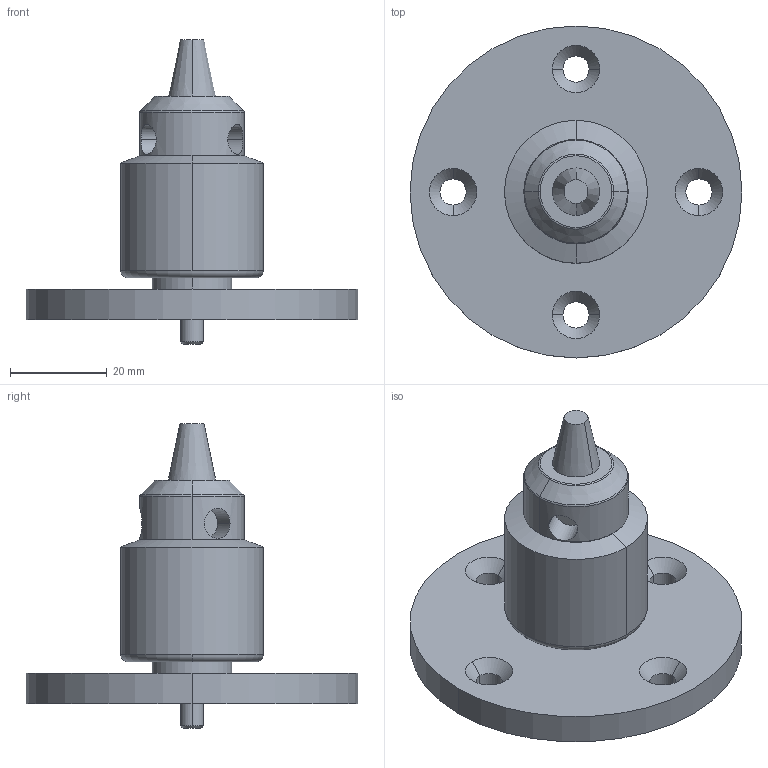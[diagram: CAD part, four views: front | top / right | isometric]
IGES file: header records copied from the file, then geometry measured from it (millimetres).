
Global section: file name: No Iges File Name specified; native system: Autodesk Inventor 2010; preprocessor: AutoDesk Inventor Iges Exporter R2010; author: mlampen; date: 20170621.164546; units: inch
Bounding box: 68.58 x 68.58 x 62.95 mm (x, y, z)
Volume: 44412 mm3; surface area: 13470.4 mm2
Topology: 1 solids, 1 shells, 56 faces, 128 edges, 82 vertices
Faces by surface type: revolution 22, cylinder 10, plane 10, cone 8, torus 6
